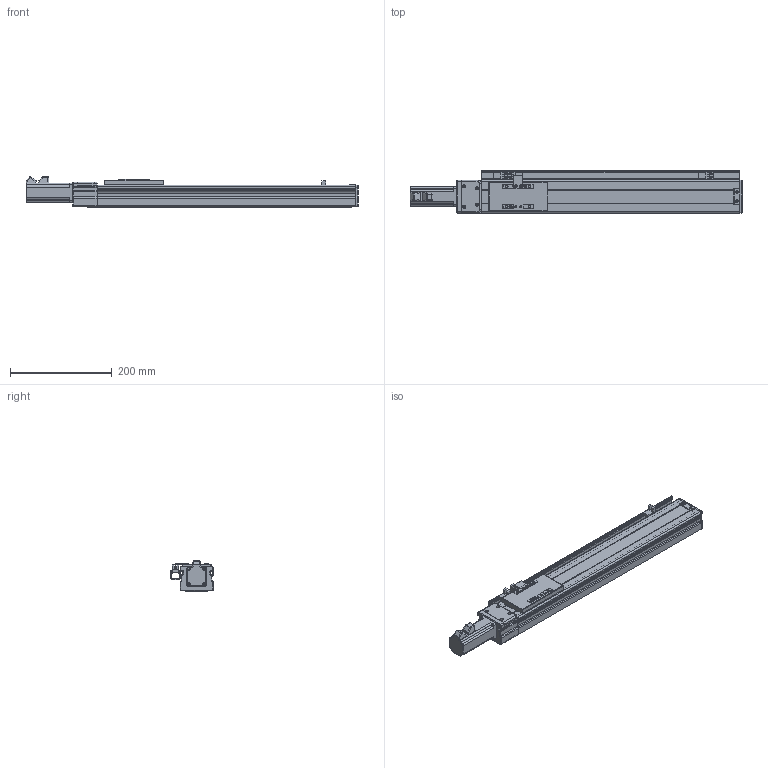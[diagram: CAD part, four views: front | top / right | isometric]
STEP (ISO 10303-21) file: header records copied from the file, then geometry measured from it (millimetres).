
FILE_DESCRIPTION (( 'STEP AP203' ), '1' );
FILE_NAME ('VT6-L10-C-S360-BC-P10-C4.STEP', '2015-10-26T05:57:38', ( '' ), ( '' ), 'SwSTEP 2.0', 'SolidWorks 2013', '' );
FILE_SCHEMA (( 'CONFIG_CONTROL_DESIGN' ));
Length unit declared in the file: millimetre
Products named in the file (15): ET6-BC耜啣_360; ET6-BC癹弇羲壽羞_360; T6-賑雄殤; T6-裔啣; T6-揤輸; T6-覜茼え; T6-綴傷裔; EE-XS674; ET6-BC絳寢_俴最360; ET6-BC滅鳥湍_360; T6-BCヶ傷裔揤啣; T6-BCヶ傷裔; 侂狟100W MSMD012G1U; ET6-BC佪裝_360; VT6-L10-C-S360-BC-P10-C4
Assembly tree (17 placements, depth 2):
  VT6-L10-C-S360-BC-P10-C4
    ET6-BC耜啣_360  x2
    ET6-BC癹弇羲壽羞_360
    T6-賑雄殤
    T6-裔啣
    T6-揤輸
    T6-覜茼え
    T6-綴傷裔
    EE-XS674  x3
    ET6-BC絳寢_俴最360
    ET6-BC滅鳥湍_360
    T6-BCヶ傷裔揤啣
    T6-BCヶ傷裔
    侂狟100W MSMD012G1U
    ET6-BC佪裝_360
Bounding box: 654 x 83 x 61 mm (x, y, z)
Volume: 774890.8 mm3; surface area: 423314.5 mm2
Topology: 17 solids, 17 shells, 880 faces, 2325 edges, 1468 vertices
Faces by surface type: cylinder 400, plane 378, cone 56, torus 28, sphere 18
Entity records: 26958 total; most frequent: CARTESIAN_POINT 4681, DIRECTION 4493, ORIENTED_EDGE 4176, EDGE_CURVE 2088, AXIS2_PLACEMENT_3D 1632, VERTEX_POINT 1328, LINE 1229, VECTOR 1229
